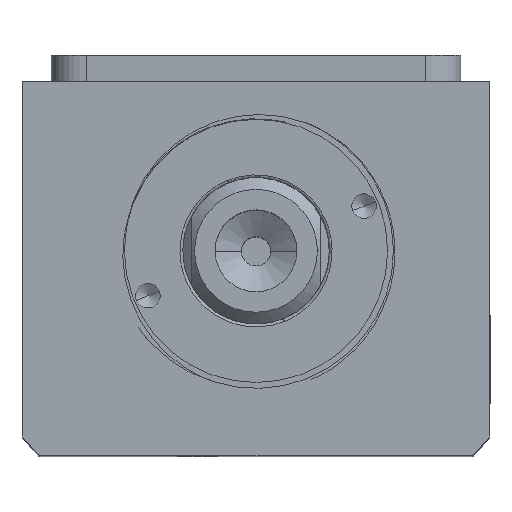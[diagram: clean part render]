
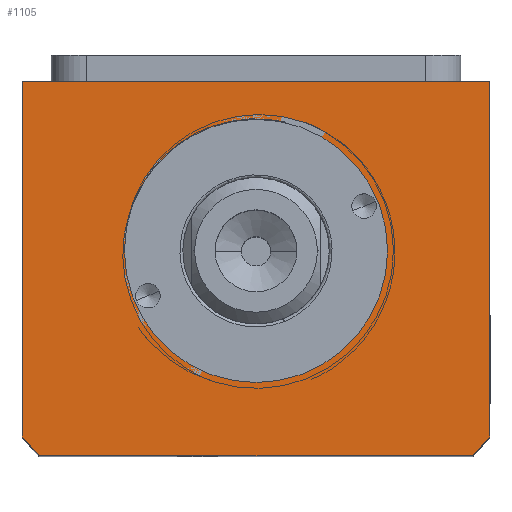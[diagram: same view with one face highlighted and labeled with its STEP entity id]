
A CAD part, top view. The second image highlights one B-rep face of the part: STEP entity #1105.
In plain terms, the highlighted planar face has unit normal (0, 0, 1).
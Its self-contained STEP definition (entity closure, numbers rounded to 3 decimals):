
#283 = CARTESIAN_POINT ( 'NONE',  ( -40., 32., 110. ) ) ;
#329 = DIRECTION ( 'NONE',  ( 1., 0., 0. ) ) ;
#470 = DIRECTION ( 'NONE',  ( 0., 0., 1. ) ) ;
#1105 = ADVANCED_FACE ( 'NONE', ( #6313, #10266 ), #7607, .T. ) ;
#1143 = EDGE_CURVE ( 'NONE', #10068, #3596, #1911, .T. ) ;
#1189 = VERTEX_POINT ( 'NONE', #2318 ) ;
#1246 = VECTOR ( 'NONE', #1674, 1000. ) ;
#1322 = CARTESIAN_POINT ( 'NONE',  ( 0., 0., 110. ) ) ;
#1329 = DIRECTION ( 'NONE',  ( 0., 0., 1. ) ) ;
#1480 = VECTOR ( 'NONE', #4312, 1000. ) ;
#1653 = LINE ( 'NONE', #9694, #7631 ) ;
#1674 = DIRECTION ( 'NONE',  ( 1., 0., 0. ) ) ;
#1911 = LINE ( 'NONE', #4500, #5573 ) ;
#1982 = ORIENTED_EDGE ( 'NONE', *, *, #7916, .T. ) ;
#2003 = DIRECTION ( 'NONE',  ( 0., 0., 1. ) ) ;
#2028 = ORIENTED_EDGE ( 'NONE', *, *, #5103, .T. ) ;
#2053 = CARTESIAN_POINT ( 'NONE',  ( 0., 3., 110. ) ) ;
#2318 = CARTESIAN_POINT ( 'NONE',  ( -40., 32., 110. ) ) ;
#2840 = DIRECTION ( 'NONE',  ( 1., 0., 0. ) ) ;
#2893 = CIRCLE ( 'NONE', #4478, 22.5 ) ;
#2936 = DIRECTION ( 'NONE',  ( 1., 0., 0. ) ) ;
#3155 = CARTESIAN_POINT ( 'NONE',  ( 40., 32., 110. ) ) ;
#3248 = EDGE_CURVE ( 'NONE', #5763, #5552, #2893, .T. ) ;
#3295 = EDGE_CURVE ( 'NONE', #5552, #5763, #6791, .T. ) ;
#3328 = EDGE_LOOP ( 'NONE', ( #2028, #7642, #9152, #7924, #10220, #1982 ) ) ;
#3336 = CARTESIAN_POINT ( 'NONE',  ( 22.5, 3., 110. ) ) ;
#3384 = LINE ( 'NONE', #7829, #1246 ) ;
#3596 = VERTEX_POINT ( 'NONE', #3155 ) ;
#3826 = VERTEX_POINT ( 'NONE', #6034 ) ;
#3835 = LINE ( 'NONE', #283, #1480 ) ;
#4089 = AXIS2_PLACEMENT_3D ( 'NONE', #6052, #1329, #6832 ) ;
#4312 = DIRECTION ( 'NONE',  ( -1., 0., 0. ) ) ;
#4376 = AXIS2_PLACEMENT_3D ( 'NONE', #1322, #470, #2936 ) ;
#4395 = EDGE_CURVE ( 'NONE', #8740, #8598, #3384, .T. ) ;
#4478 = AXIS2_PLACEMENT_3D ( 'NONE', #9841, #5133, #329 ) ;
#4500 = CARTESIAN_POINT ( 'NONE',  ( 40., 32., 110. ) ) ;
#4937 = EDGE_LOOP ( 'NONE', ( #8391, #8323 ) ) ;
#5103 = EDGE_CURVE ( 'NONE', #1189, #3826, #1653, .T. ) ;
#5133 = DIRECTION ( 'NONE',  ( 0., 0., 1. ) ) ;
#5287 = EDGE_CURVE ( 'NONE', #8598, #10068, #5570, .T. ) ;
#5552 = VERTEX_POINT ( 'NONE', #3336 ) ;
#5570 = CIRCLE ( 'NONE', #4089, 51. ) ;
#5573 = VECTOR ( 'NONE', #8419, 1000. ) ;
#5726 = DIRECTION ( 'NONE',  ( 0., -1., 0. ) ) ;
#5763 = VERTEX_POINT ( 'NONE', #7453 ) ;
#6034 = CARTESIAN_POINT ( 'NONE',  ( -40., -28.639, 110. ) ) ;
#6052 = CARTESIAN_POINT ( 'NONE',  ( 0., 3., 110. ) ) ;
#6313 = FACE_BOUND ( 'NONE', #4937, .T. ) ;
#6514 = CARTESIAN_POINT ( 'NONE',  ( -37.094, -32., 110. ) ) ;
#6679 = CARTESIAN_POINT ( 'NONE',  ( 0., 3., 110. ) ) ;
#6791 = CIRCLE ( 'NONE', #8698, 22.5 ) ;
#6832 = DIRECTION ( 'NONE',  ( 1., 0., 0. ) ) ;
#7453 = CARTESIAN_POINT ( 'NONE',  ( -22.5, 3., 110. ) ) ;
#7458 = DIRECTION ( 'NONE',  ( 1., 0., 0. ) ) ;
#7511 = DIRECTION ( 'NONE',  ( 0., 0., 1. ) ) ;
#7607 = PLANE ( 'NONE',  #4376 ) ;
#7631 = VECTOR ( 'NONE', #5726, 1000. ) ;
#7642 = ORIENTED_EDGE ( 'NONE', *, *, #8825, .T. ) ;
#7829 = CARTESIAN_POINT ( 'NONE',  ( -40., -32., 110. ) ) ;
#7876 = CIRCLE ( 'NONE', #8232, 51. ) ;
#7916 = EDGE_CURVE ( 'NONE', #3596, #1189, #3835, .T. ) ;
#7924 = ORIENTED_EDGE ( 'NONE', *, *, #5287, .T. ) ;
#8232 = AXIS2_PLACEMENT_3D ( 'NONE', #6679, #2003, #7458 ) ;
#8323 = ORIENTED_EDGE ( 'NONE', *, *, #3248, .F. ) ;
#8391 = ORIENTED_EDGE ( 'NONE', *, *, #3295, .F. ) ;
#8419 = DIRECTION ( 'NONE',  ( 0., 1., 0. ) ) ;
#8598 = VERTEX_POINT ( 'NONE', #8843 ) ;
#8698 = AXIS2_PLACEMENT_3D ( 'NONE', #2053, #7511, #2840 ) ;
#8740 = VERTEX_POINT ( 'NONE', #6514 ) ;
#8825 = EDGE_CURVE ( 'NONE', #3826, #8740, #7876, .T. ) ;
#8843 = CARTESIAN_POINT ( 'NONE',  ( 37.094, -32., 110. ) ) ;
#9152 = ORIENTED_EDGE ( 'NONE', *, *, #4395, .T. ) ;
#9694 = CARTESIAN_POINT ( 'NONE',  ( -40., 32., 110. ) ) ;
#9782 = CARTESIAN_POINT ( 'NONE',  ( 40., -28.639, 110. ) ) ;
#9841 = CARTESIAN_POINT ( 'NONE',  ( 0., 3., 110. ) ) ;
#10068 = VERTEX_POINT ( 'NONE', #9782 ) ;
#10220 = ORIENTED_EDGE ( 'NONE', *, *, #1143, .T. ) ;
#10266 = FACE_OUTER_BOUND ( 'NONE', #3328, .T. ) ;
